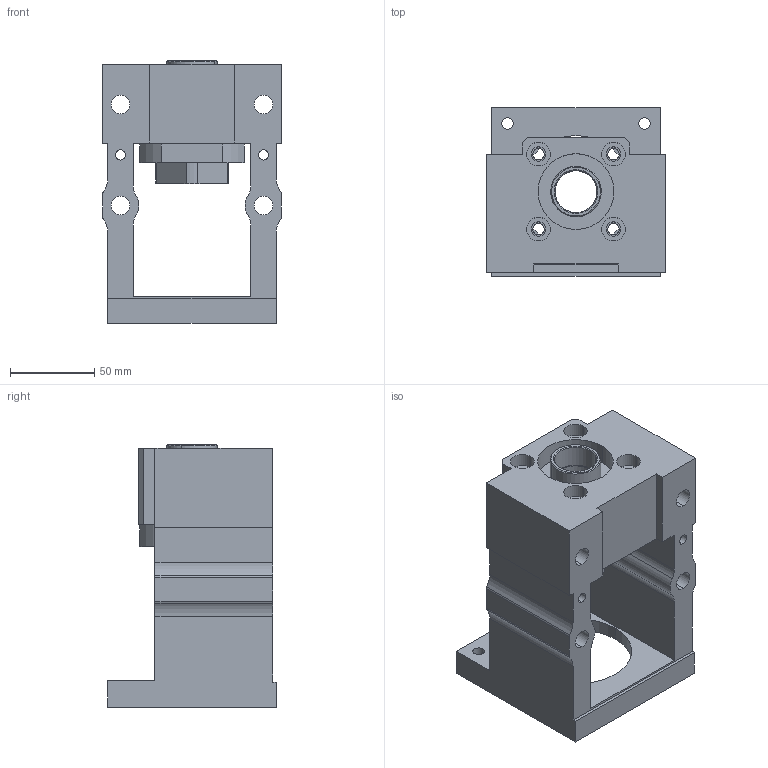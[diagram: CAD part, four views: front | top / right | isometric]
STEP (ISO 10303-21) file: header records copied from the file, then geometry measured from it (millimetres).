
FILE_DESCRIPTION((''),'2;1');
FILE_NAME('M100Y-BK25-C_ASM','2019-07-23T',('ASUS'),(''),'PRO/ENGINEER BY PARAMETRIC TECHNOLOGY CORPORATION, 2010280','PRO/ENGINEER BY PARAMETRIC TECHNOLOGY CORPORATION, 2010280','');
FILE_SCHEMA(('CONFIG_CONTROL_DESIGN'));
Length unit declared in the file: millimetre
Products named in the file (7): PRT0001; PRT0002; PRT0003; MANIFOLD_SOLID_BREP_450; MBC25-Y_ASM_ASM; M100Y-BK25-C_ASM_ASM; M100Y-BK25-C_ASM
Assembly tree (7 placements, depth 4):
  M100Y-BK25-C_ASM
    M100Y-BK25-C_ASM_ASM
      MBC25-Y_ASM_ASM
        PRT0001
        PRT0002  x2
        PRT0003
        MANIFOLD_SOLID_BREP_450
Bounding box: 106 x 100 x 156 mm (x, y, z)
Volume: 581640.9 mm3; surface area: 129060.5 mm2
Topology: 5 solids, 5 shells, 197 faces, 540 edges, 364 vertices
Faces by surface type: cylinder 107, plane 68, cone 22
Entity records: 6413 total; most frequent: CARTESIAN_POINT 1196, DIRECTION 1134, ORIENTED_EDGE 1016, EDGE_CURVE 508, AXIS2_PLACEMENT_3D 435, VERTEX_POINT 348, VECTOR 264, LINE 264
